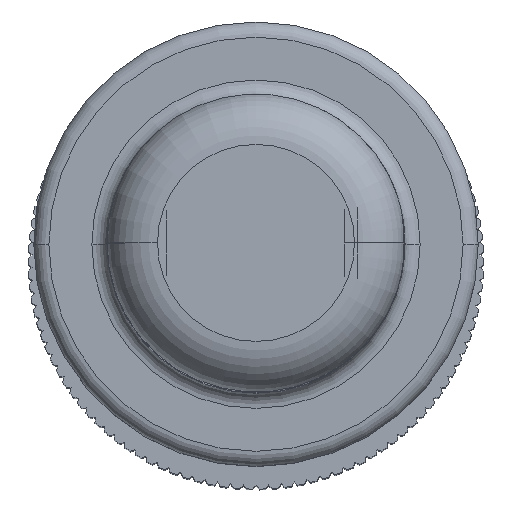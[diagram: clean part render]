
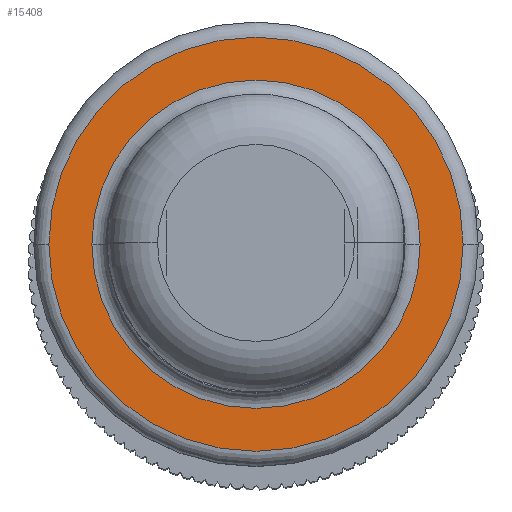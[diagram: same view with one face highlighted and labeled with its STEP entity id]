
A CAD part, top view. The second image highlights one B-rep face of the part: STEP entity #15408.
In plain terms, the highlighted planar face has unit normal (0, 0, 1).
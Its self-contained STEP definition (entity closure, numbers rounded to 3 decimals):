
#1178 = CARTESIAN_POINT ( 'NONE',  ( 4.1, 0., 208.389 ) ) ;
#1542 = DIRECTION ( 'NONE',  ( 0., 0., -1. ) ) ;
#1836 = DIRECTION ( 'NONE',  ( 1., 0., 0. ) ) ;
#3158 = ORIENTED_EDGE ( 'NONE', *, *, #7117, .F. ) ;
#4372 = CARTESIAN_POINT ( 'NONE',  ( 0., 0., 208.389 ) ) ;
#5594 = CARTESIAN_POINT ( 'NONE',  ( 0., 0., 208.389 ) ) ;
#7117 = EDGE_CURVE ( 'NONE', #14549, #11351, #15332, .T. ) ;
#7399 = DIRECTION ( 'NONE',  ( 1., 0., 0. ) ) ;
#7433 = PLANE ( 'NONE',  #33111 ) ;
#8429 = EDGE_LOOP ( 'NONE', ( #3158, #34322 ) ) ;
#8616 = DIRECTION ( 'NONE',  ( 1., 0., 0. ) ) ;
#10375 = VERTEX_POINT ( 'NONE', #19215 ) ;
#11351 = VERTEX_POINT ( 'NONE', #16776 ) ;
#13548 = ORIENTED_EDGE ( 'NONE', *, *, #38324, .T. ) ;
#13575 = EDGE_CURVE ( 'NONE', #10375, #32433, #14730, .T. ) ;
#14549 = VERTEX_POINT ( 'NONE', #18944 ) ;
#14730 = CIRCLE ( 'NONE', #25245, 4.1 ) ;
#15332 = CIRCLE ( 'NONE', #21805, 3.25 ) ;
#15408 = ADVANCED_FACE ( 'NONE', ( #15622, #19827 ), #7433, .F. ) ;
#15481 = DIRECTION ( 'NONE',  ( 0., 0., 1. ) ) ;
#15622 = FACE_BOUND ( 'NONE', #8429, .T. ) ;
#16776 = CARTESIAN_POINT ( 'NONE',  ( -3.25, 0., 208.389 ) ) ;
#18931 = EDGE_CURVE ( 'NONE', #11351, #14549, #36897, .T. ) ;
#18944 = CARTESIAN_POINT ( 'NONE',  ( 3.25, 0., 208.389 ) ) ;
#19215 = CARTESIAN_POINT ( 'NONE',  ( -4.1, 0., 208.389 ) ) ;
#19456 = CARTESIAN_POINT ( 'NONE',  ( 0., 4.1, 208.389 ) ) ;
#19718 = DIRECTION ( 'NONE',  ( 0., 0., 1. ) ) ;
#19827 = FACE_OUTER_BOUND ( 'NONE', #25851, .T. ) ;
#21805 = AXIS2_PLACEMENT_3D ( 'NONE', #5594, #26465, #8616 ) ;
#22355 = CIRCLE ( 'NONE', #36683, 4.1 ) ;
#22417 = DIRECTION ( 'NONE',  ( -1., 0., 0. ) ) ;
#25232 = DIRECTION ( 'NONE',  ( 0., 0., 1. ) ) ;
#25245 = AXIS2_PLACEMENT_3D ( 'NONE', #4372, #25232, #7399 ) ;
#25851 = EDGE_LOOP ( 'NONE', ( #13548, #37219 ) ) ;
#26465 = DIRECTION ( 'NONE',  ( 0., 0., 1. ) ) ;
#32433 = VERTEX_POINT ( 'NONE', #1178 ) ;
#33111 = AXIS2_PLACEMENT_3D ( 'NONE', #19456, #1542, #22417 ) ;
#33365 = CARTESIAN_POINT ( 'NONE',  ( 0., 0., 208.389 ) ) ;
#34322 = ORIENTED_EDGE ( 'NONE', *, *, #18931, .F. ) ;
#36358 = DIRECTION ( 'NONE',  ( 1., 0., 0. ) ) ;
#36683 = AXIS2_PLACEMENT_3D ( 'NONE', #37619, #19718, #1836 ) ;
#36897 = CIRCLE ( 'NONE', #37320, 3.25 ) ;
#37219 = ORIENTED_EDGE ( 'NONE', *, *, #13575, .T. ) ;
#37320 = AXIS2_PLACEMENT_3D ( 'NONE', #33365, #15481, #36358 ) ;
#37619 = CARTESIAN_POINT ( 'NONE',  ( 0., 0., 208.389 ) ) ;
#38324 = EDGE_CURVE ( 'NONE', #32433, #10375, #22355, .T. ) ;
